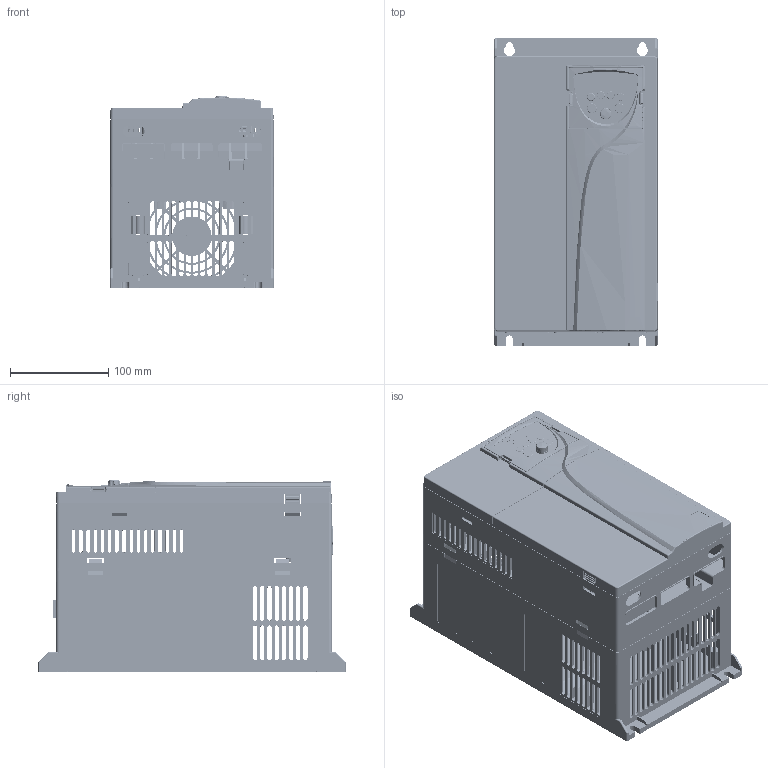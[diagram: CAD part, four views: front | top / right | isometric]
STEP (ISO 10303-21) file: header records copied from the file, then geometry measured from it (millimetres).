
FILE_DESCRIPTION (( 'STEP AP203' ), '1' );
FILE_NAME ('Ïðåîáðàçîâàòåëü ÷àñòîòû _ INVENT-G18.5-4B.STEP', '2026-04-27T08:17:42', ( '' ), ( '' ), 'SwSTEP 2.0', 'SolidWorks 2021', '' );
FILE_SCHEMA (( 'CONFIG_CONTROL_DESIGN' ));
Length unit declared in the file: millimetre
Products named in the file (48): A04-EM05-01A; 阨儒脣釱HY52B-8; LED-365X14X7; 0-K04-C-0001_ASM; RL508-15A-3P; 諉盄翐4x4.8x10; CONN-2X5P--1400; C03S-BOTTOMCASE; K04-C-PCB00; 諉盄翐4x4.8x19; K04-C-0001; RL508-15A-2P; _SMT0001; 匿雄羲壽2.54; HF46F; K04-C--U00; LED0; 諉盄翐4x4.8x19_1; A04-EM05-01A郪璃; k04-c-醱裔; C03S-MIDCASE; C03S-BOTTOMCASE_1; RL508-15A-2P郪璃; C03S-METAL-PLATE; K01-M-C--5001; C03S-BOTTOMCASE_3; 26Pす菁釱; K04-C--12MM0001; K04-C-PCB0002_ASM; k03s-c-20260411; RL508-15A-8P郪璃; K04-C--D00; 諉盄翐4x4.8x10_1; _6X6-5_50001; CONN-2X5P-13X6X11; C03S-MIDCASE_ASM; RL508-15A-3P郪璃; KA3X12; C03S-BOTTOMCASE_2; C03S-BOTTOMCASE_4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
Assembly tree (72 placements, depth 8):
  Ïðåîáðàçîâàòåëü ÷àñòîòû _ INVENT-G18.5-4B
    k03s-c-20260411
      C03S-BOTTOMCASE
        C03S-BOTTOMCASE_1
        C03S-BOTTOMCASE_3
        C03S-BOTTOMCASE
        C03S-BOTTOMCASE_4
        C03S-BOTTOMCASE_2
      C03S-FANCOVER
      C03S-METAL-PLATE
    k04-c-醱裔
      0-K04-C-0001_ASM
        K04-C--U00
        K04-C--D00
        0-K04-C-0002_ASM
          K04-C-0001
          K04-C-0002
          K04-C-PCB0002_ASM
            K04-C-PCB00
            LED-365X14X7
            LED0  x6
            _6X6-5_50001  x6
            DWQ_15
            _SMT0001
            CONN-2X5P-13X6X11
          K04-C--12MM0001
          K01-M-C--5001
          KA3X12  x4
      C03S-MIDCASE_ASM
        C03S-MIDCASE
        A04-EM05-01A郪璃
          A04-EM05-01A
          CONN-2X5P--1400
          RL508-15A-8P郪璃
            RL508-15A-3P郪璃  x2
              RL508-15A-3P
              諉盄翐4x4.8x10
                諉盄翐4x4.8x10_1
                諉盄翐4x4.8x10
              諉盄翐4x4.8x19
                諉盄翐4x4.8x19_1
                諉盄翐4x4.8x19
            RL508-15A-2P郪璃
              RL508-15A-2P
              諉盄翐4x4.8x10  x2
                諉盄翐4x4.8x10_1
                諉盄翐4x4.8x10
              諉盄翐4x4.8x19  x2
                諉盄翐4x4.8x19_1
                諉盄翐4x4.8x19
          匿雄羲壽2.54  x4
          HF46F
          26Pす菁釱
          阨儒脣釱HY52B-8
Bounding box: 166.4 x 312 x 194.98 mm (x, y, z)
Volume: 716818.4 mm3; surface area: 847819.2 mm2
Topology: 78 solids, 88 shells, 11896 faces, 32777 edges, 21501 vertices
Faces by surface type: plane 8162, cylinder 1894, bspline 1109, cone 632, sphere 65, torus 34
Entity records: 365535 total; most frequent: CARTESIAN_POINT 128142, ORIENTED_EDGE 53090, DIRECTION 39487, EDGE_CURVE 26547, LINE 17801, VECTOR 17801, VERTEX_POINT 17429, AXIS2_PLACEMENT_3D 10843
